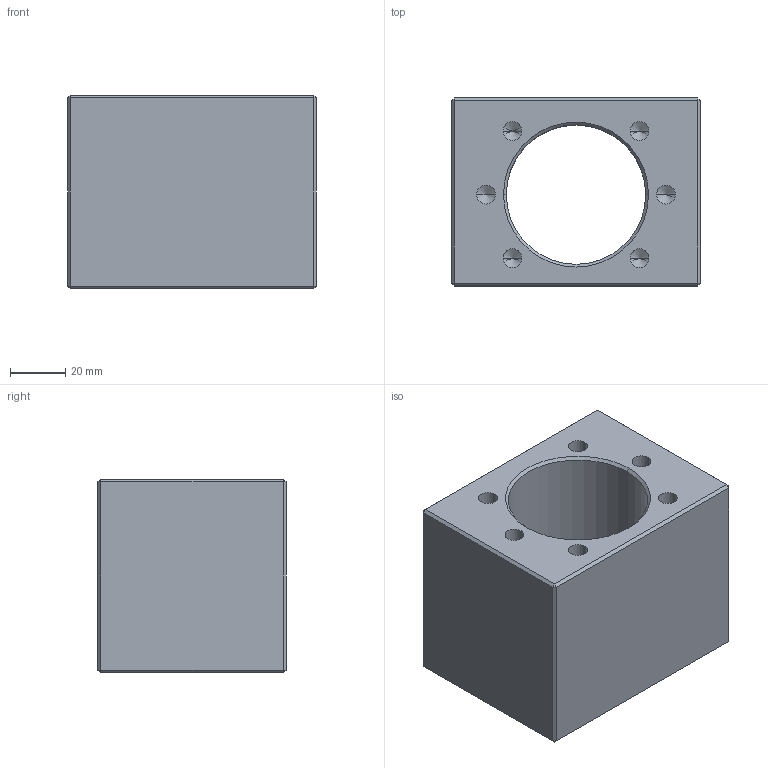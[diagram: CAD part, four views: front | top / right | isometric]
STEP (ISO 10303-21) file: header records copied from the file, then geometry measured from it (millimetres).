
FILE_DESCRIPTION (( 'STEP AP203' ), '1' );
FILE_NAME ('自化件螺帽支座歐規MGD32S本體.STEP', '2019-04-11T06:56:56', ( '' ), ( '' ), 'SwSTEP 2.0', 'SolidWorks 2018', '' );
FILE_SCHEMA (( 'CONFIG_CONTROL_DESIGN' ));
Length unit declared in the file: millimetre
Products named in the file (1): 自化件螺帽支座歐規MGD32S本體
Bounding box: 90 x 68 x 70 mm (x, y, z)
Volume: 275102.8 mm3; surface area: 46425.7 mm2
Topology: 1 solids, 1 shells, 80 faces, 178 edges, 90 vertices
Faces by surface type: cone 32, plane 26, cylinder 22
Entity records: 2091 total; most frequent: DIRECTION 376, CARTESIAN_POINT 329, ORIENTED_EDGE 316, EDGE_CURVE 158, AXIS2_PLACEMENT_3D 137, VECTOR 102, LINE 102, EDGE_LOOP 92
